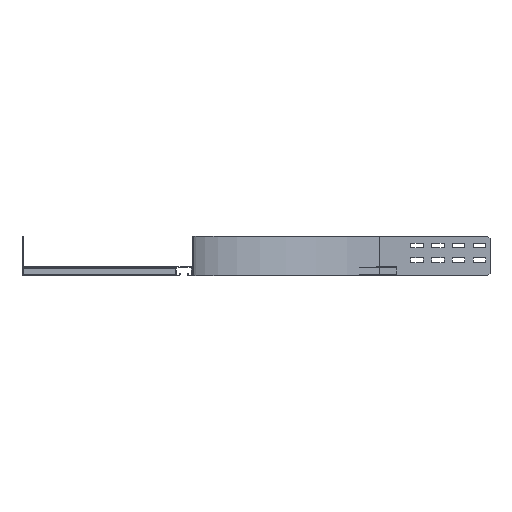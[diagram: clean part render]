
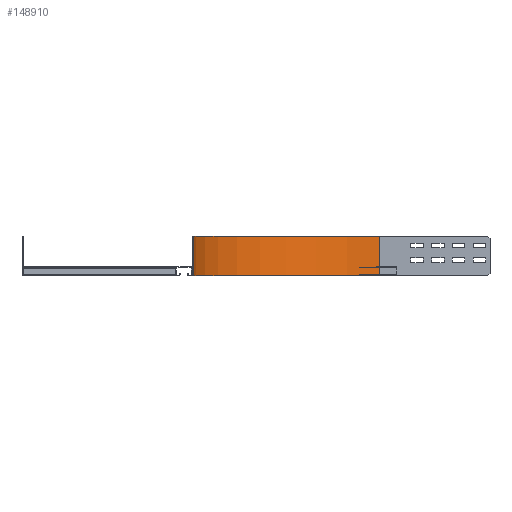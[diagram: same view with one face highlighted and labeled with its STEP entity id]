
A CAD part, left-side view. The second image highlights one B-rep face of the part: STEP entity #148910.
In plain terms, the highlighted cylindrical face has radius 447 mm (diameter 894 mm), a partial arc.
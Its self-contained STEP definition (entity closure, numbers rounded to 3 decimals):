
#126960=CARTESIAN_POINT('',(447.,-450.,-50.));
#126970=VERTEX_POINT('',#126960);
#127000=CARTESIAN_POINT('',(0.,-450.,-50.));
#127010=DIRECTION('',(0.,0.,1.));
#127020=DIRECTION('',(1.,0.,0.));
#127030=AXIS2_PLACEMENT_3D('',#127000,#127010,#127020);
#127040=CIRCLE('',#127030,447.);
#127050=CARTESIAN_POINT('',(0.,-3.,-50.));
#127060=VERTEX_POINT('',#127050);
#127070=EDGE_CURVE('',#126970,#127060,#127040,.T.);
#130470=CARTESIAN_POINT('',(0.,-3.,-145.));
#130480=VERTEX_POINT('',#130470);
#130510=CARTESIAN_POINT('',(0.,-450.,-145.));
#130520=DIRECTION('',(0.,0.,1.));
#130530=DIRECTION('',(1.,0.,0.));
#130540=AXIS2_PLACEMENT_3D('',#130510,#130520,#130530);
#130550=CIRCLE('',#130540,447.);
#130560=CARTESIAN_POINT('',(447.,-450.,-145.));
#130570=VERTEX_POINT('',#130560);
#130580=EDGE_CURVE('',#130570,#130480,#130550,.T.);
#134590=CARTESIAN_POINT('',(447.,-450.,0.));
#134600=DIRECTION('',(0.,0.,1.));
#134610=VECTOR('',#134600,1.);
#134620=LINE('',#134590,#134610);
#134630=EDGE_CURVE('',#130570,#126970,#134620,.T.);
#140290=CARTESIAN_POINT('',(0.,-3.,0.));
#140300=DIRECTION('',(0.,0.,1.));
#140310=VECTOR('',#140300,1.);
#140320=LINE('',#140290,#140310);
#140330=EDGE_CURVE('',#130480,#127060,#140320,.T.);
#148800=CARTESIAN_POINT('',(0.,-450.,0.));
#148810=DIRECTION('',(0.,0.,1.));
#148820=DIRECTION('',(1.,0.,0.));
#148830=AXIS2_PLACEMENT_3D('',#148800,#148810,#148820);
#148840=CYLINDRICAL_SURFACE('',#148830,447.);
#148850=ORIENTED_EDGE('',*,*,#127070,.T.);
#148860=ORIENTED_EDGE('',*,*,#134630,.T.);
#148870=ORIENTED_EDGE('',*,*,#130580,.F.);
#148880=ORIENTED_EDGE('',*,*,#140330,.F.);
#148890=EDGE_LOOP('',(#148880,#148870,#148860,#148850));
#148900=FACE_OUTER_BOUND('',#148890,.T.);
#148910=ADVANCED_FACE('',(#148900),#148840,.F.);
